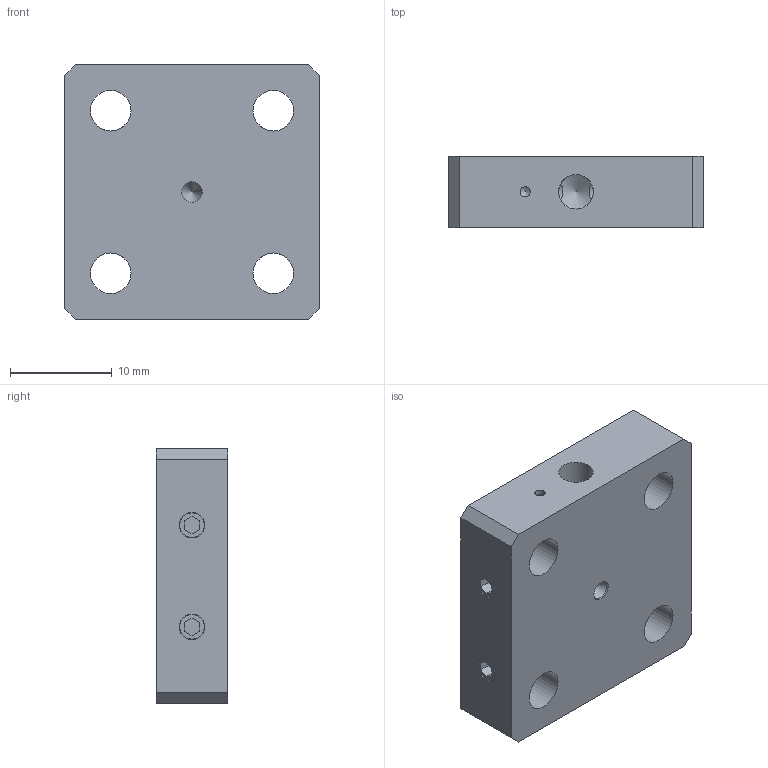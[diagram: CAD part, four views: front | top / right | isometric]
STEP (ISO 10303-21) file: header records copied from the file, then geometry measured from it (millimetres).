
FILE_DESCRIPTION(/* description */ (''),/* implementation_level */ '2;1');
FILE_NAME(/* name */ 'Y:\2_OpticalHard\08_Cage Systems\C16ｼﾘｰｽﾞ\C16-BKP\20180726_中間ﾌｧｲﾙ\C16-BKP.stp',/* time_stamp */ '2018-07-26T09:15:17+09:00',/* author */ ('e.nonaka'),/* organization */ (''),/* preprocessor_version */ 'ST-DEVELOPER v17',/* originating_system */ 'Autodesk Inventor 2018',/* authorisation */ '');
FILE_SCHEMA (('AUTOMOTIVE_DESIGN { 1 0 10303 214 3 1 1 }'));
Length unit declared in the file: millimetre
Products named in the file (1): C16BKP-M02-18001-TS01
Bounding box: 25 x 7 x 25 mm (x, y, z)
Volume: 3676.1 mm3; surface area: 2646.7 mm2
Topology: 1 solids, 1 shells, 74 faces, 212 edges, 146 vertices
Faces by surface type: plane 46, cylinder 16, cone 12
Full cylindrical faces by diameter (mm): 1 x1, 2 x1, 2.5 x8, 3.3 x1, 3.4 x1, 4 x4
Entity records: 2891 total; most frequent: CARTESIAN_POINT 791, ORIENTED_EDGE 416, DIRECTION 396, EDGE_CURVE 208, VERTEX_POINT 146, AXIS2_PLACEMENT_3D 135, LINE 126, VECTOR 126
